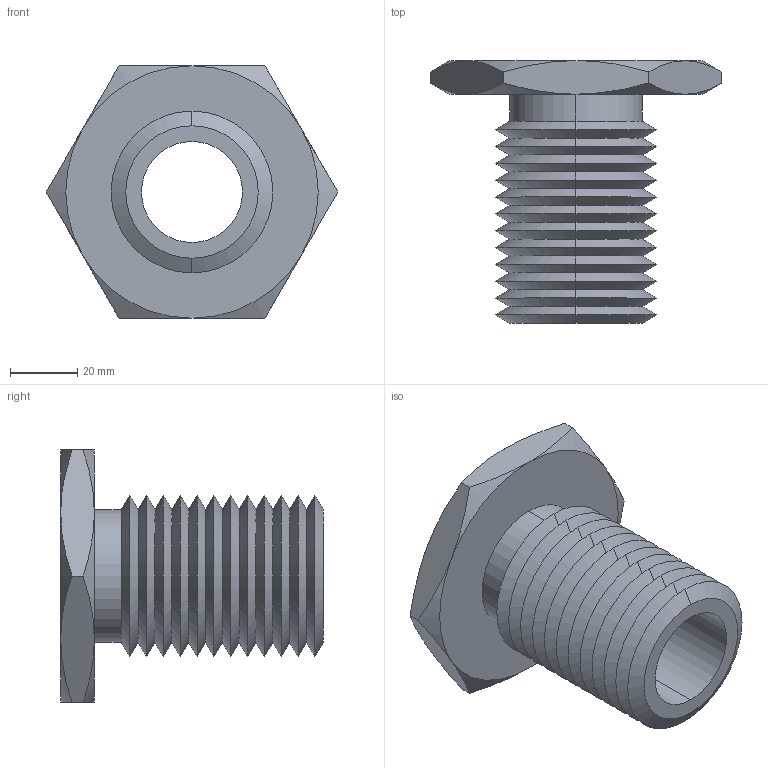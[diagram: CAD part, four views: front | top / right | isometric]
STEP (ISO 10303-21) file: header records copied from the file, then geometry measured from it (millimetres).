
FILE_DESCRIPTION (( 'STEP AP203' ), '1' );
FILE_NAME ('63302.W0048_M30x3,5.step', '2013-12-08T11:18:06', ( 'User' ), ( '' ), 'SwSTEP 2.0', 'SolidWorks 2009', '' );
FILE_SCHEMA (( 'CONFIG_CONTROL_DESIGN' ));
Length unit declared in the file: millimetre
Products named in the file (1): 63302.W0048_M30x3,5
Bounding box: 86.6 x 78 x 75 mm (x, y, z)
Volume: 91926.8 mm3; surface area: 35096.4 mm2
Topology: 1 solids, 1 shells, 75 faces, 154 edges, 82 vertices
Faces by surface type: cone 62, plane 9, cylinder 4
Entity records: 2139 total; most frequent: CARTESIAN_POINT 496, DIRECTION 352, ORIENTED_EDGE 308, EDGE_CURVE 154, AXIS2_PLACEMENT_3D 146, VERTEX_POINT 82, EDGE_LOOP 78, ADVANCED_FACE 75
